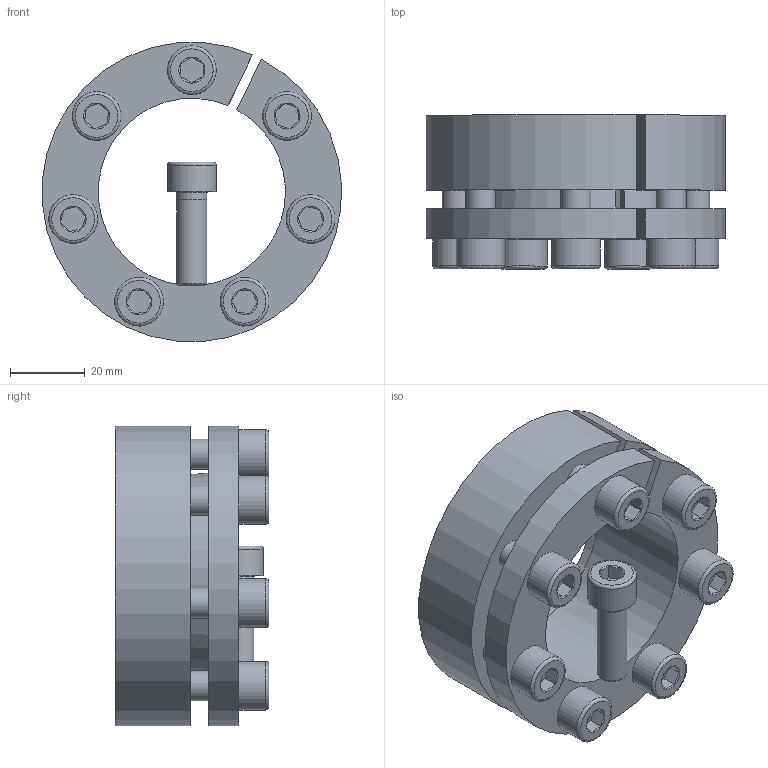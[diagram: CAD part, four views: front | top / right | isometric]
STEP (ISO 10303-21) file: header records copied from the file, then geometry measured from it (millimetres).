
FILE_DESCRIPTION( ( 'Unknown' ), '1' );
FILE_NAME( 'C:/Dokumente und Einstellungen/Sven/Desktop/homepage/cad - homepage/KBS13/KBS 13 - 50 x 80.stp', 'Unknown', ( 'Unknown' ), ( 'Unknown' ), 'XStep 1.0', 'Unknown', ' ' );
FILE_SCHEMA( ( 'automotive_design' ) );
Length unit declared in the file: millimetre
Products named in the file (3): Assem1; KBS 13 - 50 x 80; ISO EN DIN 4762 M8x25
Bounding box: 79.8 x 41 x 79.8 mm (x, y, z)
Volume: 170238 mm3; surface area: 67780.4 mm2
Topology: 10 solids, 10 shells, 252 faces, 516 edges, 316 vertices
Faces by surface type: plane 110, cylinder 66, cone 60, torus 16
Full cylindrical faces by diameter (mm): 7 x8, 8 x44, 13 x8
Entity records: 1700 total; most frequent: CARTESIAN_POINT 282, DIRECTION 258, ORIENTED_EDGE 186, AXIS2_PLACEMENT_3D 115, EDGE_LOOP 104, EDGE_CURVE 93, FACE_OUTER_BOUND 71, VERTEX_POINT 71
